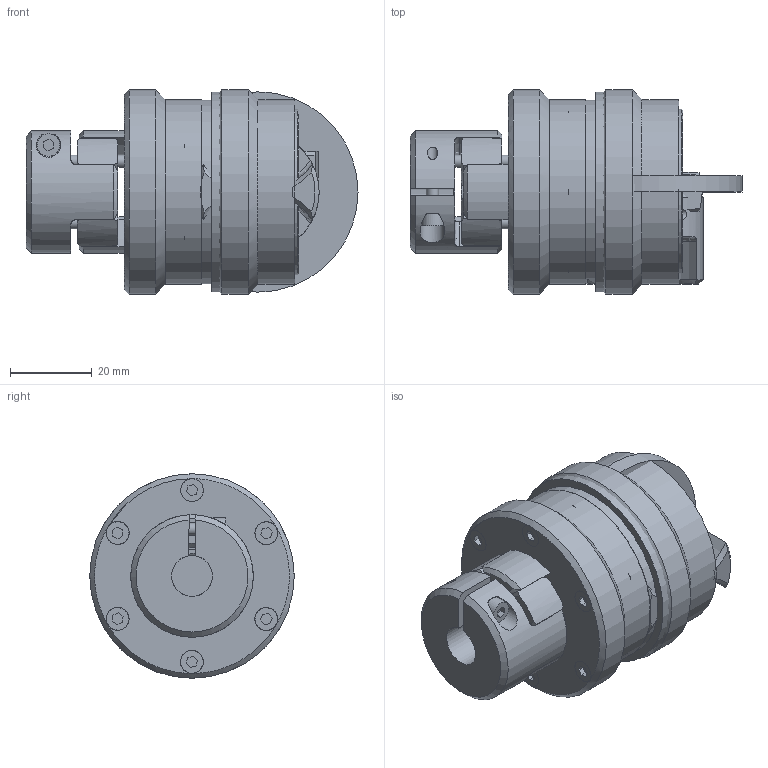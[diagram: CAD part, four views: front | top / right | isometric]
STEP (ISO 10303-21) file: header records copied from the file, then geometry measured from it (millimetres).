
FILE_DESCRIPTION( ( 'Unknown' ), '1' );
FILE_NAME( 'C:/Dokumente und Einstellungen/Sven/Desktop/hp kbk/E-KK/KBK EKK 14.stp', 'Unknown', ( 'Unknown' ), ( 'Unknown' ), 'XStep 1.0', 'Unknown', ' ' );
FILE_SCHEMA( ( 'automotive_design' ) );
Length unit declared in the file: millimetre
Products named in the file (17): Assem1; Assem2; Assem3; ball_bearing_-_61904_0_01; ball_bearing_-_61904_0_02; ball_bearing_-_61904_0_03; Zylinderschraube DIN 912; Stellring 10; Druckring 10; a_20; Flansch L-LL10; Elastomerflansch EK 10; Zahnkranz_14_Standard; KBE 2 - 14_Nabe; L-K-10 Grundteil; Klemmnabe 7-10; schraube_iso_7380-m4x12-12_9
Bounding box: 81.2 x 50 x 50 mm (x, y, z)
Volume: 146343 mm3; surface area: 89916.6 mm2
Topology: 38 solids, 38 shells, 638 faces, 1464 edges, 944 vertices
Faces by surface type: plane 266, cylinder 228, cone 103, torus 39, bspline 2
Full cylindrical faces by diameter (mm): 2 x4, 2.459 x16, 2.5 x2, 3 x17, 3.242 x2, 3.4 x12, 3.5 x2, 4 x2, 4.2 x2, 5.5 x9, 5.6 x12, 6 x2, 7.3 x2, 10 x4, 14 x2, 19 x2, 20 x7, 22 x2, 24 x4, 25 x2, 25.6 x6, 29 x2, 29.993 x2, 30 x2, 31.4 x6, 37 x7, 38 x2, 40 x2, 45 x2, 45.2 x2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
Entity records: 8286 total; most frequent: CARTESIAN_POINT 1893, DIRECTION 1265, ORIENTED_EDGE 1016, AXIS2_PLACEMENT_3D 568, EDGE_CURVE 508, EDGE_LOOP 407, VERTEX_POINT 372, FACE_OUTER_BOUND 337
